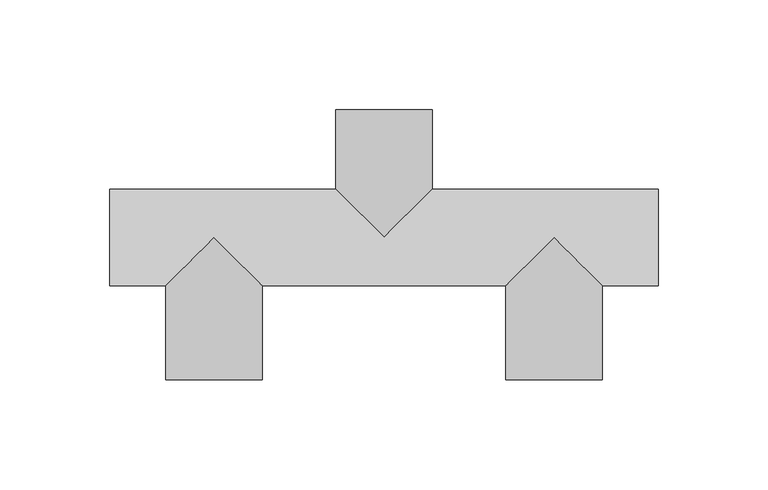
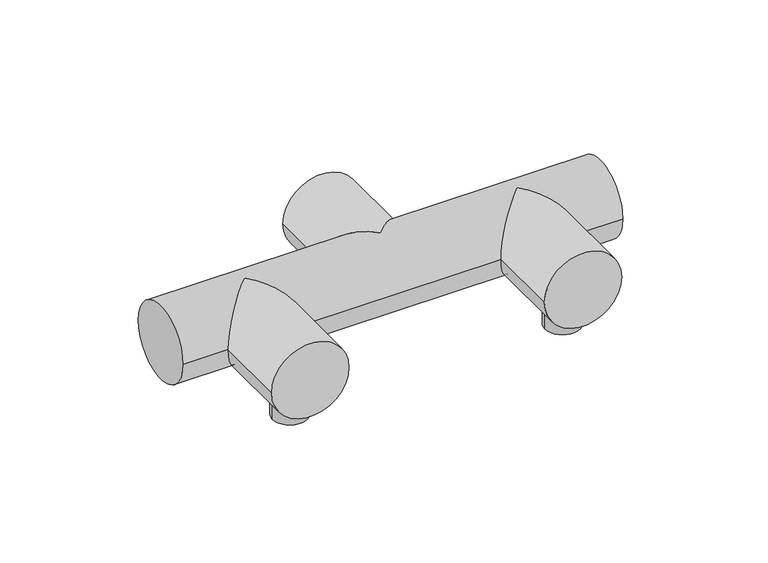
"""IFC4 building model written with IfcOpenShell, lengths in millimetres: flow terminal geometry, BIMHealth-Taps_IPS-LOD2A-v1 : BIMHealth-Taps_IPS-LOD2A-v1."""

import ifcopenshell
import ifcopenshell.guid

model = None  # the IFC model being written
_history = None  # IfcOwnerHistory: only IFC2X3 demands one
_inside = {}  # id of a spatial element -> (the spatial element, [elements in it])
_under = {}  # id of a project, library or spatial element -> (it, [spatial elements below it])
_declared = {}  # id of a project -> (the project, [libraries it declares])
_typed = {}  # id of a type object -> (the type object, [elements of that type])
_made_of = {}  # id of a material, layer set ... -> (it, [elements and type objects made of it])


def new_model(schema):
    """Start an empty IFC model of exactly this schema.

    Asked for "IFC4X3", IfcOpenShell would pick the latest addendum, in which some entities
    have other attributes; the version numbers below select the first issue.
    IFC2X3 requires an IfcOwnerHistory on every rooted entity: one is made here for all.
    """
    global model, _history
    if schema == "IFC4X3":
        model = ifcopenshell.file(schema_version=(4, 3, 0, 0))
    else:
        model = ifcopenshell.file(schema=schema)
    _inside.clear()
    _under.clear()
    _declared.clear()
    _typed.clear()
    _made_of.clear()
    _history = None
    if model.schema == "IFC2X3":
        org = make("IfcOrganization", Name="unknown")
        user = make(
            "IfcPersonAndOrganization",
            ThePerson=make("IfcPerson", FamilyName="unknown"),
            TheOrganization=org,
        )
        app = make(
            "IfcApplication",
            ApplicationDeveloper=org,
            Version="unknown",
            ApplicationFullName="unknown",
            ApplicationIdentifier="unknown",
        )
        _history = make(
            "IfcOwnerHistory",
            OwningUser=user,
            OwningApplication=app,
            ChangeAction="ADDED",
            CreationDate=0,
        )
    return model


def make(cls, **values):
    """One entity of the class cls with the attributes given. An attribute that is None is left unset."""
    return model.create_entity(
        cls, **{name: value for name, value in values.items() if value is not None}
    )


def rooted(cls, **values):
    """An entity with a GlobalId (a new one), such as an element, a storey or a relation."""
    return make(cls, GlobalId=ifcopenshell.guid.new(), OwnerHistory=_history, **values)


def si_unit(unit_type, name, prefix=None):
    """IfcSIUnit, for example si_unit("LENGTHUNIT", "METRE", prefix="MILLI")."""
    return make("IfcSIUnit", UnitType=unit_type, Prefix=prefix, Name=name)


def assignment(units):
    """IfcUnitAssignment: the units of a project."""
    return None if units is None else make("IfcUnitAssignment", Units=units)


def point(xyz):
    """IfcCartesianPoint."""
    return None if xyz is None else make("IfcCartesianPoint", Coordinates=xyz)


def direction(xyz):
    """IfcDirection."""
    return None if xyz is None else make("IfcDirection", DirectionRatios=xyz)


def frame(location, z_axis=None, x_axis=None):
    """IfcAxis2Placement3D, a coordinate frame: its origin and axes. An axis left out is left unset."""
    return make(
        "IfcAxis2Placement3D",
        Location=point(location),
        Axis=direction(z_axis),
        RefDirection=direction(x_axis),
    )


def frame_2d(location, x_axis=None):
    """IfcAxis2Placement2D, a coordinate frame in the plane: its origin and x axis."""
    return make(
        "IfcAxis2Placement2D", Location=point(location), RefDirection=direction(x_axis)
    )


def origin():
    """The frame at (0, 0, 0) with its axes left unset."""
    return frame((0.0, 0.0, 0.0))


def place(relative_to, where):
    """IfcLocalPlacement: puts the frame where relative to a parent placement (None: the world)."""
    return make(
        "IfcLocalPlacement", PlacementRelTo=relative_to, RelativePlacement=where
    )


def context(
    kind, dimensions, precision=None, world=None, true_north=None, identifier=None
):
    """IfcGeometricRepresentationContext, for example the 3D "Model" context."""
    return make(
        "IfcGeometricRepresentationContext",
        ContextIdentifier=identifier,
        ContextType=kind,
        CoordinateSpaceDimension=dimensions,
        Precision=precision,
        WorldCoordinateSystem=world,
        TrueNorth=true_north,
    )


def project(units=None, contexts=None):
    """IfcProject with its units and contexts."""
    return rooted(
        "IfcProject",
        Name="project",
        RepresentationContexts=contexts,
        UnitsInContext=assignment(units),
    )


def spatial(cls, under=None, at=None, **own):
    """A site, building, storey or space (cls), placed at a placement, below another one or the project."""
    s = rooted(cls, ObjectPlacement=at, **own)
    if under is not None:
        _under.setdefault(under.id(), (under, []))[1].append(s)
    return s


def circle_curve(where, radius):
    """IfcCircle in the frame where."""
    return make("IfcCircle", Position=where, Radius=radius)


def ellipse_curve(where, semi_axis1, semi_axis2):
    """IfcEllipse in the frame where."""
    return make(
        "IfcEllipse", Position=where, SemiAxis1=semi_axis1, SemiAxis2=semi_axis2
    )


def trimmed(basis, trim1, trim2, sense, master):
    """IfcTrimmedCurve: the piece of a basis curve between two trims."""
    return make(
        "IfcTrimmedCurve",
        BasisCurve=basis,
        Trim1=trim1,
        Trim2=trim2,
        SenseAgreement=sense,
        MasterRepresentation=master,
    )


def segment(curve, same_sense, transition):
    """IfcCompositeCurveSegment."""
    return make(
        "IfcCompositeCurveSegment",
        Transition=transition,
        SameSense=same_sense,
        ParentCurve=curve,
    )


def composite_curve(segments, self_intersect=None):
    """IfcCompositeCurve: segments joined end to end."""
    return make("IfcCompositeCurve", Segments=segments, SelfIntersect=self_intersect)


def outline(outer, holes=None, kind="AREA"):
    """IfcArbitraryClosedProfileDef: a profile drawn as a closed curve; with holes, ...WithVoids."""
    if holes is None:
        return make("IfcArbitraryClosedProfileDef", ProfileType=kind, OuterCurve=outer)
    return make(
        "IfcArbitraryProfileDefWithVoids",
        ProfileType=kind,
        OuterCurve=outer,
        InnerCurves=holes,
    )


def extrude(swept, where, along, depth):
    """IfcExtrudedAreaSolid: the profile swept, set in the frame where, extruded along a direction by depth."""
    return make(
        "IfcExtrudedAreaSolid",
        SweptArea=swept,
        Position=where,
        ExtrudedDirection=direction(along),
        Depth=depth,
    )


def shape(context_of_items, identifier, shape_type, items):
    """IfcShapeRepresentation: the items that make up one representation, for example the "Body"."""
    return make(
        "IfcShapeRepresentation",
        ContextOfItems=context_of_items,
        RepresentationIdentifier=identifier,
        RepresentationType=shape_type,
        Items=items,
    )


def source(mapping_origin, context_of_items, identifier, shape_type, items):
    """IfcRepresentationMap: a shape defined once, which mapped items show again and again."""
    return make(
        "IfcRepresentationMap",
        MappingOrigin=mapping_origin,
        MappedRepresentation=shape(context_of_items, identifier, shape_type, items),
    )


def transform(
    local_origin,
    x_axis=None,
    y_axis=None,
    z_axis=None,
    scale=None,
    scale2=None,
    scale3=None,
    uniform=True,
):
    """IfcCartesianTransformationOperator3D, or its non-uniform kind. x_axis, y_axis, z_axis: its Axis1, 2, 3."""
    if uniform:
        return make(
            "IfcCartesianTransformationOperator3D",
            Axis1=direction(x_axis),
            Axis2=direction(y_axis),
            LocalOrigin=point(local_origin),
            Scale=scale,
            Axis3=direction(z_axis),
        )
    return make(
        "IfcCartesianTransformationOperator3DnonUniform",
        Axis1=direction(x_axis),
        Axis2=direction(y_axis),
        LocalOrigin=point(local_origin),
        Scale=scale,
        Axis3=direction(z_axis),
        Scale2=scale2,
        Scale3=scale3,
    )


def mapped(mapping_source, mapping_target):
    """IfcMappedItem: shows the shape of a source again, moved by a transform."""
    return make(
        "IfcMappedItem", MappingSource=mapping_source, MappingTarget=mapping_target
    )


def made_of(thing, what):
    """Note that an element or type object is made of a material, layer set ...; save() writes the relation."""
    if what is not None:
        _made_of.setdefault(what.id(), (what, []))[1].append(thing)
    return thing


def element(
    cls,
    number,
    at=None,
    inside=None,
    cuts=None,
    type_object=None,
    material=None,
    context=None,
    identifier="Body",
    shape_type=None,
    held_by="IfcProductDefinitionShape",
    body=None,
    shapes=None,
    **own,
):
    """One element of the class cls, such as IfcWall. Its Tag is "e" and its number.

    at: its placement. inside: the storey or other place that contains it. cuts: it is an
    opening in that element (IfcRelVoidsElement). A single representation is given by context,
    identifier, shape_type and body (its items); several are given by shapes. held_by: the class
    of the entity that holds the representations. save() writes the other relations.
    """
    e = rooted(cls, Tag="e%d" % number, ObjectPlacement=at, **own)
    if body is not None:
        shapes = [shape(context, identifier, shape_type, body)]
    if shapes is not None:
        e.Representation = make(held_by, Representations=shapes)
    if inside is not None:
        _inside.setdefault(inside.id(), (inside, []))[1].append(e)
    if cuts is not None:
        rooted(
            "IfcRelVoidsElement", RelatingBuildingElement=cuts, RelatedOpeningElement=e
        )
    if type_object is not None:
        _typed.setdefault(type_object.id(), (type_object, []))[1].append(e)
    return made_of(e, material)


def aggregate(whole, parts):
    """IfcRelAggregates: a whole, such as a stair, and the parts it consists of."""
    return rooted("IfcRelAggregates", RelatingObject=whole, RelatedObjects=parts)


def save(model, path):
    """Write the relations noted so far, then the file.

    IfcRelAggregates (storeys below a building ...), IfcRelContainedInSpatialStructure (elements
    in a storey), IfcRelDefinesByType, IfcRelAssociatesMaterial and IfcRelDeclares: one each for
    every whole, place, type object, material and project.
    """
    for whole, parts in _under.values():
        aggregate(whole, parts)
    for where, things in _inside.values():
        rooted(
            "IfcRelContainedInSpatialStructure",
            RelatedElements=things,
            RelatingStructure=where,
        )
    for kind, things in _typed.values():
        rooted("IfcRelDefinesByType", RelatedObjects=things, RelatingType=kind)
    for what, things in _made_of.values():
        rooted("IfcRelAssociatesMaterial", RelatedObjects=things, RelatingMaterial=what)
    for by, libraries in _declared.values():
        rooted("IfcRelDeclares", RelatingContext=by, RelatedDefinitions=libraries)
    model.write(path)


def plane_surface(at):
    """IfcPlane: the flat surface through the origin of the frame at, square to its z axis."""
    return make("IfcPlane", Position=at)


def cylinder_surface(at, radius):
    """IfcCylindricalSurface: all points at the distance radius from the z axis of the frame at."""
    return make("IfcCylindricalSurface", Position=at, Radius=radius)


def advanced_brep(points, edges, surfaces, faces):
    """IfcAdvancedBrep: a solid bounded by faces that lie on surfaces and meet in shared edges.

    An edge is (start, end): straight between two places in points (the first is 0);
    or (start, end, curve); or (start, end, curve, False) where it runs against its curve.
    A face is (place in surfaces, loops), or (place, loops, False) where it looks against
    its surface's normal. A loop lists edges by number (the first is 1), with a minus sign
    where the edge is run from its end to its start. The first loop is the outer one.
    """
    corners = [point(p) for p in points]
    vertices = [make("IfcVertexPoint", VertexGeometry=c) for c in corners]
    made = []
    for start, end, *more in edges:
        made.append(
            make(
                "IfcEdgeCurve",
                EdgeStart=vertices[start],
                EdgeEnd=vertices[end],
                EdgeGeometry=more[0] if more else make("IfcPolyline", Points=[corners[start], corners[end]]),
                SameSense=more[1] if len(more) > 1 else True,
            )
        )
    hull = []
    for where, loops, *sense in faces:
        bounds = []
        for j, loop in enumerate(loops):
            ring = [make("IfcOrientedEdge", EdgeElement=made[abs(k) - 1], Orientation=k > 0) for k in loop]
            bounds.append(
                make(
                    "IfcFaceOuterBound" if j == 0 else "IfcFaceBound",
                    Bound=make("IfcEdgeLoop", EdgeList=ring),
                    Orientation=True,
                )
            )
        hull.append(make("IfcAdvancedFace", Bounds=bounds, FaceSurface=surfaces[where], SameSense=sense[0] if sense else True))
    return make("IfcAdvancedBrep", Outer=make("IfcClosedShell", CfsFaces=hull))


def flow_terminal_004a381b(model_context):
    return source(origin(), model_context, "Body", "SolidModel", [
        extrude(outline(composite_curve([segment(trimmed(circle_curve(frame_2d((202.5, -45.0)), 10.0), [point((212.5, -45.0))], [point((192.5, -45.0))], False, "CARTESIAN"), True, "CONTINUOUS"), segment(trimmed(circle_curve(frame_2d((202.5, -45.0)), 10.0), [point((192.5, -45.0))], [point((212.5, -45.0))], False, "CARTESIAN"), True, "CONTINUOUS")], self_intersect=False)), frame((0.0, 0.0, -32.2162266), z_axis=(0.0, 0.0, 1.0), x_axis=(1.0, 0.0, 0.0)), (0.0, 0.0, 1.0), 32.2162266),
        extrude(outline(composite_curve([segment(trimmed(circle_curve(frame_2d((47.5, -45.0)), 10.0), [point((37.5, -45.0))], [point((57.5, -45.0))], False, "CARTESIAN"), True, "CONTINUOUS"), segment(trimmed(circle_curve(frame_2d((47.5, -45.0)), 10.0), [point((57.5, -45.0))], [point((37.5, -45.0))], False, "CARTESIAN"), True, "CONTINUOUS")], self_intersect=False)), frame((0.0, 0.0, -32.2162266), z_axis=(0.0, 0.0, 1.0), x_axis=(1.0, 0.0, 0.0)), (0.0, 0.0, 1.0), 32.2162266),
        advanced_brep(
        [(250.0, 22.0, 0.0), (250.0, -22.0, 0.0), (0.0, 22.0, 0.0), (0.0, -22.0, 0.0), (147.0, 22.0, 0.0), (125.0, 0.0, 22.0), (103.0, 22.0, 0.0), (25.5, -22.0, 0.0), (47.5, 0.0, 22.0), (69.5, -22.0, 0.0), (180.5, -22.0, 0.0), (202.5, 0.0, 22.0), (224.5, -22.0, 0.0), (202.5, 0.0, -22.0), (47.5, 0.0, -22.0), (125.0, 0.0, -22.0), (69.5, -65.0, 0.0), (25.5, -65.0, 0.0), (180.5, -65.0, 0.0), (224.5, -65.0, 0.0), (147.0, 58.1543621, 0.0), (103.0, 58.1543621, 0.0)],
        [
            (0, 1, circle_curve(frame((250.0, 0.0, 0.0), z_axis=(1.0, 0.0, 0.0), x_axis=(0.0, -1.0, 0.0)), 22.0)),
            (1, 0, circle_curve(frame((250.0, 0.0, 0.0), z_axis=(1.0, 0.0, 0.0), x_axis=(0.0, -1.0, 0.0)), 22.0)),
            (2, 3, circle_curve(frame((0.0, 0.0, 0.0), z_axis=(-1.0, 0.0, 0.0), x_axis=(0.0, -1.0, 0.0)), 22.0)),
            (3, 2, circle_curve(frame((0.0, 0.0, 0.0), z_axis=(-1.0, 0.0, 0.0), x_axis=(0.0, -1.0, 0.0)), 22.0)),
            (0, 4),
            (4, 5, ellipse_curve(frame((125.0, 0.0, 0.0), z_axis=(0.7071067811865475, -0.7071067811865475, 0.0), x_axis=(0.7071067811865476, 0.7071067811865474, 0.0)), 31.1126984, 22.0)),
            (5, 6, ellipse_curve(frame((125.0, 0.0, 0.0), z_axis=(-0.7071067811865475, -0.7071067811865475, 0.0), x_axis=(0.7071067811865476, -0.7071067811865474, 0.0)), 31.1126984, 22.0)),
            (6, 2),
            (3, 7),
            (7, 8, ellipse_curve(frame((47.5, 0.0, 0.0), z_axis=(-0.7071067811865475, 0.7071067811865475, 0.0), x_axis=(0.7071067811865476, 0.7071067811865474, 0.0)), 31.1126984, 22.0)),
            (8, 9, ellipse_curve(frame((47.5, 0.0, 0.0), z_axis=(0.7071067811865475, 0.7071067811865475, 0.0), x_axis=(0.7071067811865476, -0.7071067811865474, 0.0)), 31.1126984, 22.0)),
            (9, 10),
            (10, 11, ellipse_curve(frame((202.5, 0.0, 0.0), z_axis=(-0.7071067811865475, 0.7071067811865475, 0.0), x_axis=(0.7071067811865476, 0.7071067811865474, 0.0)), 31.1126984, 22.0)),
            (11, 12, ellipse_curve(frame((202.5, 0.0, 0.0), z_axis=(0.7071067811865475, 0.7071067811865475, 0.0), x_axis=(0.7071067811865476, -0.7071067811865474, 0.0)), 31.1126984, 22.0)),
            (12, 1),
            (12, 13, ellipse_curve(frame((202.5, 0.0, 0.0), z_axis=(0.7071067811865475, 0.7071067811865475, 0.0), x_axis=(0.7071067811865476, -0.7071067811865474, 0.0)), 31.1126984, 22.0)),
            (13, 10, ellipse_curve(frame((202.5, 0.0, 0.0), z_axis=(-0.7071067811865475, 0.7071067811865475, 0.0), x_axis=(0.7071067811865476, 0.7071067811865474, 0.0)), 31.1126984, 22.0)),
            (9, 14, ellipse_curve(frame((47.5, 0.0, 0.0), z_axis=(0.7071067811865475, 0.7071067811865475, 0.0), x_axis=(0.7071067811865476, -0.7071067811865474, 0.0)), 31.1126984, 22.0)),
            (14, 7, ellipse_curve(frame((47.5, 0.0, 0.0), z_axis=(-0.7071067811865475, 0.7071067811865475, 0.0), x_axis=(0.7071067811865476, 0.7071067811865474, 0.0)), 31.1126984, 22.0)),
            (6, 15, ellipse_curve(frame((125.0, 0.0, 0.0), z_axis=(-0.7071067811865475, -0.7071067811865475, 0.0), x_axis=(0.7071067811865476, -0.7071067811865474, 0.0)), 31.1126984, 22.0)),
            (15, 4, ellipse_curve(frame((125.0, 0.0, 0.0), z_axis=(0.7071067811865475, -0.7071067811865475, 0.0), x_axis=(0.7071067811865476, 0.7071067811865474, 0.0)), 31.1126984, 22.0)),
            (16, 17, circle_curve(frame((47.5, -65.0, 0.0), z_axis=(0.0, -1.0, 0.0), x_axis=(-1.0, 0.0, 0.0)), 22.0)),
            (17, 16, circle_curve(frame((47.5, -65.0, 0.0), z_axis=(0.0, -1.0, 0.0), x_axis=(-1.0, 0.0, 0.0)), 22.0)),
            (18, 19, circle_curve(frame((202.5, -65.0, 0.0), z_axis=(0.0, -1.0, 0.0), x_axis=(1.0, 0.0, 0.0)), 22.0)),
            (19, 18, circle_curve(frame((202.5, -65.0, 0.0), z_axis=(0.0, -1.0, 0.0), x_axis=(1.0, 0.0, 0.0)), 22.0)),
            (16, 9),
            (7, 17),
            (18, 10),
            (12, 19),
            (20, 21, circle_curve(frame((125.0, 58.1543621, 0.0), z_axis=(0.0, 1.0, 0.0), x_axis=(-1.0, 0.0, 0.0)), 22.0)),
            (21, 20, circle_curve(frame((125.0, 58.1543621, 0.0), z_axis=(0.0, 1.0, 0.0), x_axis=(-1.0, 0.0, 0.0)), 22.0)),
            (21, 6),
            (4, 20),
        ],
        [
            plane_surface(frame((250.0, -22.0, 0.0), z_axis=(1.0, 0.0, 0.0), x_axis=(0.0, 0.0, -1.0))),
            plane_surface(frame((0.0, -22.0, 0.0), z_axis=(-1.0, 0.0, 0.0), x_axis=(0.0, 0.0, 1.0))),
            cylinder_surface(frame((0.0, 0.0, 0.0), z_axis=(1.0, 0.0, 0.0), x_axis=(0.0, -1.0, 0.0)), 22.0),
            plane_surface(frame((25.5, -65.0, 0.0), z_axis=(0.0, -1.0, 0.0), x_axis=(0.0, 0.0, -1.0))),
            cylinder_surface(frame((47.5, 0.0, 0.0), z_axis=(0.0, -1.0, 0.0), x_axis=(-1.0, 0.0, 0.0)), 22.0),
            cylinder_surface(frame((202.5, 0.0, 0.0), z_axis=(0.0, -1.0, 0.0), x_axis=(1.0, 0.0, 0.0)), 22.0),
            plane_surface(frame((103.0, 58.1543621, 0.0), z_axis=(0.0, 1.0, 0.0), x_axis=(0.0, 0.0, 1.0))),
            cylinder_surface(frame((125.0, 58.1543621, 0.0), z_axis=(0.0, -1.0, 0.0), x_axis=(-1.0, 0.0, 0.0)), 22.0),
        ],
        [
            (0, [[1, 2]]),
            (1, [[3, 4]]),
            (2, [[-1, 5, 6, 7, 8, -4, 9, 10, 11, 12, 13, 14, 15]]),
            (2, [[-2, -15, 16, 17, -12, 18, 19, -9, -3, -8, 20, 21, -5]]),
            (3, [[22, 23]]),
            (3, [[24, 25]]),
            (4, [[-22, 26, -11, -10, 27]]),
            (4, [[-23, -27, -19, -18, -26]]),
            (5, [[-24, 28, -17, -16, 29]]),
            (5, [[-25, -29, -14, -13, -28]]),
            (6, [[30, 31]]),
            (7, [[-31, 32, -7, -6, 33]]),
            (7, [[-30, -33, -21, -20, -32]]),
        ],
    ),
    ])


if __name__ == "__main__":
    model = new_model("IFC4")
    model_context = context("Model", 3, world=origin())
    ifc_project = project(units=[si_unit("LENGTHUNIT", "METRE", prefix="MILLI")], contexts=[model_context])
    site = spatial("IfcSite", under=ifc_project)
    building = spatial("IfcBuilding", under=site)
    placement = place(None, origin())
    flow_terminal_shape = flow_terminal_004a381b(model_context)
    element("IfcFlowTerminal", 1, ObjectType="BIMHealth-Taps_IPS-LOD2A-v1 : BIMHealth-Taps_IPS-LOD2A-v1", at=placement, inside=building, context=model_context, shape_type="MappedRepresentation", body=[
        mapped(flow_terminal_shape, transform((0.0, 0.0, 0.0), x_axis=(1.0, 0.0, 0.0), y_axis=(0.0, 1.0, 0.0), z_axis=(0.0, 0.0, 1.0))),
    ])
    save(model, "model.ifc")
